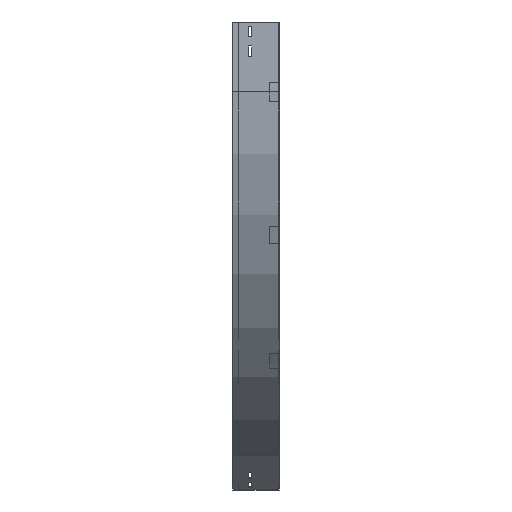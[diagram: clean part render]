
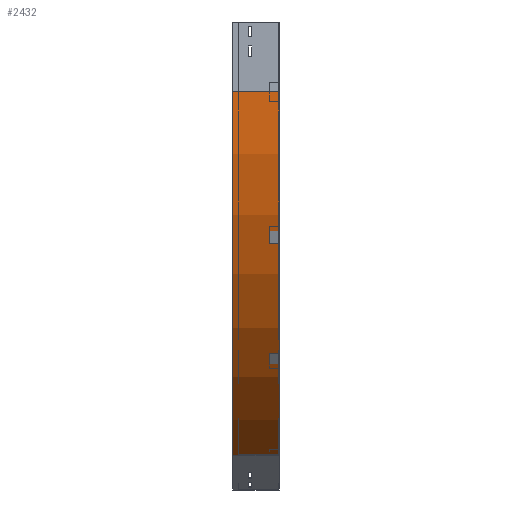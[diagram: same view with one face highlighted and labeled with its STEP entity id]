
A CAD part, left-side view. The second image highlights one B-rep face of the part: STEP entity #2432.
In plain terms, the highlighted cylindrical face has radius 900 mm (diameter 1800 mm), a partial arc.
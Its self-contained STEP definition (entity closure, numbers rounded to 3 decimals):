
#77 = AXIS2_PLACEMENT_3D ( 'NONE', #1901, #3358, #3084 ) ;
#128 = DIRECTION ( 'NONE',  ( -1., 0., 0. ) ) ;
#587 = AXIS2_PLACEMENT_3D ( 'NONE', #1541, #2460, #128 ) ;
#626 = ORIENTED_EDGE ( 'NONE', *, *, #2836, .F. ) ;
#645 = CIRCLE ( 'NONE', #77, 900. ) ;
#1007 = EDGE_CURVE ( 'NONE', #2407, #1067, #1757, .T. ) ;
#1022 = AXIS2_PLACEMENT_3D ( 'NONE', #2239, #2161, #3107 ) ;
#1067 = VERTEX_POINT ( 'NONE', #3783 ) ;
#1273 = CIRCLE ( 'NONE', #587, 900. ) ;
#1282 = CYLINDRICAL_SURFACE ( 'NONE', #1022, 900. ) ;
#1321 = DIRECTION ( 'NONE',  ( 0., -1., 0. ) ) ;
#1410 = VECTOR ( 'NONE', #1321, 1000. ) ;
#1435 = DIRECTION ( 'NONE',  ( 0., -1., 0. ) ) ;
#1497 = CARTESIAN_POINT ( 'NONE',  ( 450., 0., -929.423 ) ) ;
#1541 = CARTESIAN_POINT ( 'NONE',  ( 900., 100., -150. ) ) ;
#1687 = CARTESIAN_POINT ( 'NONE',  ( 0., 0., -150. ) ) ;
#1721 = VERTEX_POINT ( 'NONE', #2293 ) ;
#1757 = LINE ( 'NONE', #1687, #2361 ) ;
#1885 = FACE_OUTER_BOUND ( 'NONE', #2823, .T. ) ;
#1901 = CARTESIAN_POINT ( 'NONE',  ( 900., 0., -150. ) ) ;
#1909 = CARTESIAN_POINT ( 'NONE',  ( 0., 100., -150. ) ) ;
#2153 = ORIENTED_EDGE ( 'NONE', *, *, #1007, .F. ) ;
#2161 = DIRECTION ( 'NONE',  ( 0., -1., 0. ) ) ;
#2185 = VERTEX_POINT ( 'NONE', #3230 ) ;
#2239 = CARTESIAN_POINT ( 'NONE',  ( 900., 0., -150. ) ) ;
#2293 = CARTESIAN_POINT ( 'NONE',  ( 450., 0., -929.423 ) ) ;
#2348 = EDGE_CURVE ( 'NONE', #2185, #1721, #2647, .T. ) ;
#2361 = VECTOR ( 'NONE', #1435, 1000. ) ;
#2407 = VERTEX_POINT ( 'NONE', #1909 ) ;
#2432 = ADVANCED_FACE ( 'NONE', ( #1885 ), #1282, .T. ) ;
#2437 = ORIENTED_EDGE ( 'NONE', *, *, #2348, .T. ) ;
#2460 = DIRECTION ( 'NONE',  ( 0., -1., 0. ) ) ;
#2647 = LINE ( 'NONE', #1497, #1410 ) ;
#2823 = EDGE_LOOP ( 'NONE', ( #626, #2153, #3598, #2437 ) ) ;
#2836 = EDGE_CURVE ( 'NONE', #1067, #1721, #645, .T. ) ;
#3075 = EDGE_CURVE ( 'NONE', #2407, #2185, #1273, .T. ) ;
#3084 = DIRECTION ( 'NONE',  ( -1., 0., 0. ) ) ;
#3107 = DIRECTION ( 'NONE',  ( 0., 0., -1. ) ) ;
#3230 = CARTESIAN_POINT ( 'NONE',  ( 450., 100., -929.423 ) ) ;
#3358 = DIRECTION ( 'NONE',  ( 0., -1., 0. ) ) ;
#3598 = ORIENTED_EDGE ( 'NONE', *, *, #3075, .T. ) ;
#3783 = CARTESIAN_POINT ( 'NONE',  ( 0., 0., -150. ) ) ;
